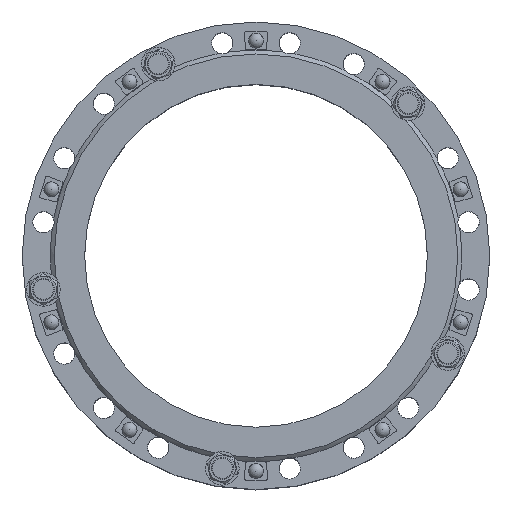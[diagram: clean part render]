
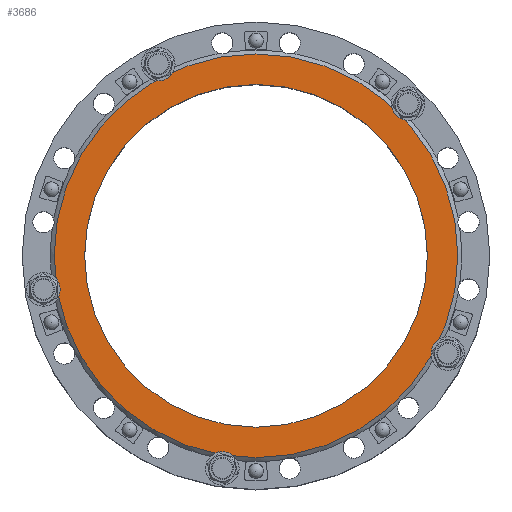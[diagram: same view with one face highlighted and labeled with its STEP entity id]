
A CAD part, top view. The second image highlights one B-rep face of the part: STEP entity #3686.
In plain terms, the highlighted planar face has unit normal (0, 0, 1) as drawn and (0, 0, -1) by its records, which use the part's own axes.
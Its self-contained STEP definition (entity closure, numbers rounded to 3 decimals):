
#3686=ADVANCED_FACE('',(#5786,#5788),#5790,.F.);
#5786=FACE_BOUND('',#5787,.T.);
#5787=EDGE_LOOP('',(#8443));
#5788=FACE_BOUND('',#5789,.T.);
#5789=EDGE_LOOP('',(#8444));
#5790=PLANE('',#5791);
#5791=AXIS2_PLACEMENT_3D('',#5792,#5793,#5794);
#5792=CARTESIAN_POINT('',(0.,0.,0.));
#5793=DIRECTION('',(0.,0.,1.));
#5794=DIRECTION('',(-1.,0.,0.));
#8443=ORIENTED_EDGE('',*,*,#9497,.F.);
#8444=ORIENTED_EDGE('',*,*,#9659,.T.);
#9497=EDGE_CURVE('',#10887,#10887,#10888,.T.);
#9659=EDGE_CURVE('',#11131,#11131,#11132,.T.);
#10887=VERTEX_POINT('',#19367);
#10888=CIRCLE('',#19368,265.);
#11131=VERTEX_POINT('',#19977);
#11132=CIRCLE('',#19978,225.);
#19367=CARTESIAN_POINT('',(-265.,0.,0.));
#19368=AXIS2_PLACEMENT_3D('',#19369,#19370,#19371);
#19369=CARTESIAN_POINT('',(0.,0.,0.));
#19370=DIRECTION('',(0.,0.,1.));
#19371=DIRECTION('',(-1.,0.,0.));
#19977=CARTESIAN_POINT('',(-225.,0.,0.));
#19978=AXIS2_PLACEMENT_3D('',#19979,#19980,#19981);
#19979=CARTESIAN_POINT('',(0.,0.,0.));
#19980=DIRECTION('',(0.,0.,1.));
#19981=DIRECTION('',(-1.,0.,0.));
